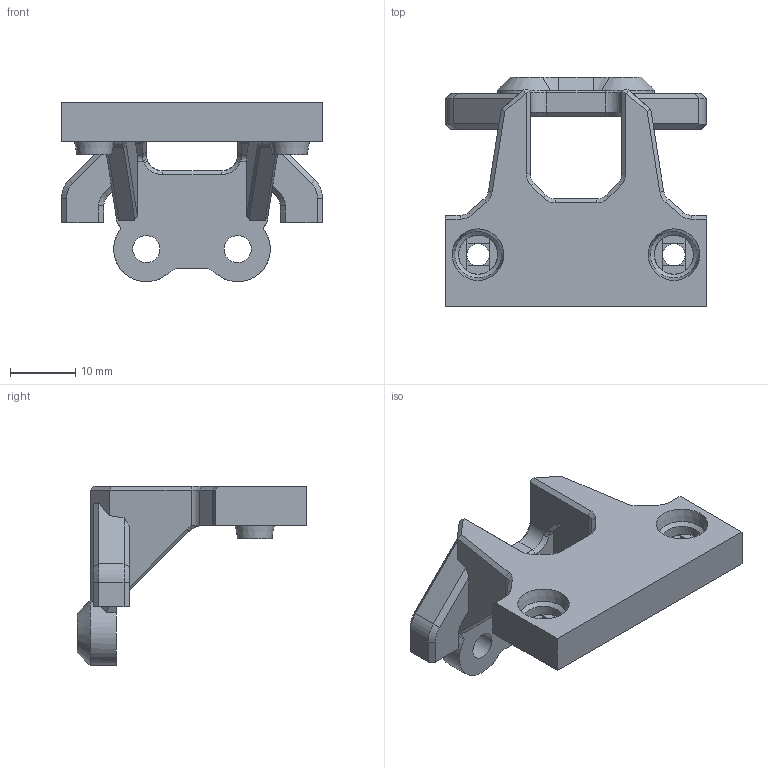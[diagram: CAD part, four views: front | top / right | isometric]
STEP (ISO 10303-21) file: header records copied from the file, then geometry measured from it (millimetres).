
FILE_DESCRIPTION(/* description */ (''),/* implementation_level */ '2;1');
FILE_NAME(/* name */ 'HMG7-Creality-Stock-MK8-MS-Mount.step',/* time_stamp */ '2022-11-01T21:03:10-07:00',/* author */ (''),/* organization */ (''),/* preprocessor_version */ 'ST-DEVELOPER v19.2',/* originating_system */ 'Autodesk Translation Framework v11.17.0.187',/* authorisation */ '');
FILE_SCHEMA (('AUTOMOTIVE_DESIGN { 1 0 10303 214 3 1 1 }'));
Length unit declared in the file: millimetre
Products named in the file (3): GEN_7_1.5; Mk8 Hotend; MK8_Top_Mount_Plate
Assembly tree (2 placements, depth 3):
  GEN_7_1.5
    Mk8 Hotend
      MK8_Top_Mount_Plate
Bounding box: 40 x 35.23 x 27.47 mm (x, y, z)
Volume: 7509 mm3; surface area: 4801.4 mm2
Topology: 1 solids, 1 shells, 207 faces, 530 edges, 325 vertices
Faces by surface type: plane 119, cone 40, cylinder 30, bspline 18
Full cylindrical faces by diameter (mm): 3.4 x2, 4.15 x2, 6 x2
Entity records: 6584 total; most frequent: CARTESIAN_POINT 1541, ORIENTED_EDGE 1060, DIRECTION 995, EDGE_CURVE 530, LINE 373, VECTOR 373, VERTEX_POINT 325, AXIS2_PLACEMENT_3D 311
